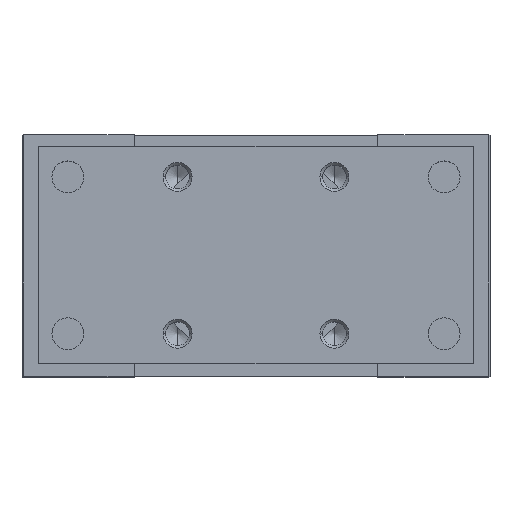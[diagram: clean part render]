
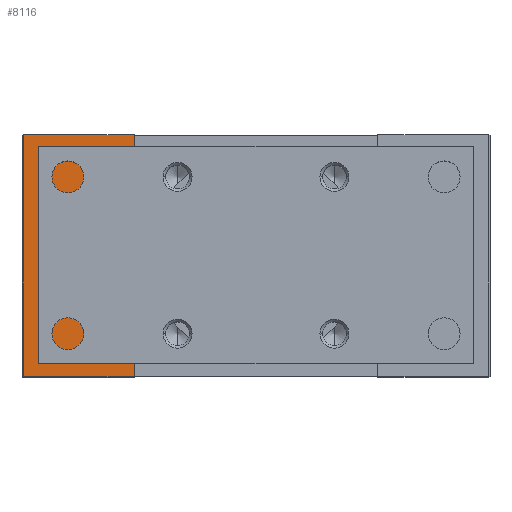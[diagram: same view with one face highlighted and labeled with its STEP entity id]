
A CAD part, top view. The second image highlights one B-rep face of the part: STEP entity #8116.
In plain terms, the highlighted planar face has unit normal (0, 0, 1).
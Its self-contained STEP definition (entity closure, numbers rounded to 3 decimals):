
#222 = DIRECTION ( 'NONE',  ( 0., -1., 0. ) ) ;
#427 = CARTESIAN_POINT ( 'NONE',  ( -48.2, -25., 49. ) ) ;
#521 = CIRCLE ( 'NONE', #6841, 6. ) ;
#560 = DIRECTION ( 'NONE',  ( 0., 0., -1. ) ) ;
#1081 = DIRECTION ( 'NONE',  ( 0., -1., 0. ) ) ;
#1389 = CARTESIAN_POINT ( 'NONE',  ( -43., 0., 49. ) ) ;
#1471 = EDGE_CURVE ( 'NONE', #4884, #1998, #5707, .T. ) ;
#1517 = DIRECTION ( 'NONE',  ( 1., 0., 0. ) ) ;
#1863 = CARTESIAN_POINT ( 'NONE',  ( -48.2, 50., 49. ) ) ;
#1998 = VERTEX_POINT ( 'NONE', #5231 ) ;
#2059 = CARTESIAN_POINT ( 'NONE',  ( -31., 0., 49. ) ) ;
#2268 = DIRECTION ( 'NONE',  ( 1., 0., 0. ) ) ;
#2499 = EDGE_CURVE ( 'NONE', #9607, #4266, #521, .T. ) ;
#2519 = PLANE ( 'NONE',  #10083 ) ;
#2645 = EDGE_LOOP ( 'NONE', ( #8421, #5435, #4868, #6909 ) ) ;
#3067 = CARTESIAN_POINT ( 'NONE',  ( -48.5, -25., 49. ) ) ;
#3124 = DIRECTION ( 'NONE',  ( 0., 0., 1. ) ) ;
#3261 = FACE_OUTER_BOUND ( 'NONE', #2645, .T. ) ;
#3302 = CIRCLE ( 'NONE', #3484, 6. ) ;
#3309 = ORIENTED_EDGE ( 'NONE', *, *, #4555, .F. ) ;
#3372 = FACE_BOUND ( 'NONE', #8006, .T. ) ;
#3441 = CARTESIAN_POINT ( 'NONE',  ( -48.2, 25., 49. ) ) ;
#3484 = AXIS2_PLACEMENT_3D ( 'NONE', #9493, #7751, #10394 ) ;
#3697 = ORIENTED_EDGE ( 'NONE', *, *, #2499, .F. ) ;
#4039 = EDGE_CURVE ( 'NONE', #4079, #4772, #7267, .T. ) ;
#4056 = DIRECTION ( 'NONE',  ( 0., -1., 0. ) ) ;
#4079 = VERTEX_POINT ( 'NONE', #427 ) ;
#4266 = VERTEX_POINT ( 'NONE', #2059 ) ;
#4555 = EDGE_CURVE ( 'NONE', #4266, #9607, #3302, .T. ) ;
#4581 = VECTOR ( 'NONE', #222, 1000. ) ;
#4772 = VERTEX_POINT ( 'NONE', #6905 ) ;
#4868 = ORIENTED_EDGE ( 'NONE', *, *, #4039, .T. ) ;
#4884 = VERTEX_POINT ( 'NONE', #3441 ) ;
#4994 = EDGE_CURVE ( 'NONE', #1998, #4772, #7957, .T. ) ;
#5231 = CARTESIAN_POINT ( 'NONE',  ( -25.25, 25., 49. ) ) ;
#5435 = ORIENTED_EDGE ( 'NONE', *, *, #6186, .T. ) ;
#5522 = VECTOR ( 'NONE', #1081, 1000. ) ;
#5525 = CARTESIAN_POINT ( 'NONE',  ( -25.25, 25., 49. ) ) ;
#5707 = LINE ( 'NONE', #5820, #6353 ) ;
#5820 = CARTESIAN_POINT ( 'NONE',  ( -48.5, 25., 49. ) ) ;
#6186 = EDGE_CURVE ( 'NONE', #4884, #4079, #9609, .T. ) ;
#6353 = VECTOR ( 'NONE', #1517, 1000. ) ;
#6841 = AXIS2_PLACEMENT_3D ( 'NONE', #9165, #3124, #2268 ) ;
#6905 = CARTESIAN_POINT ( 'NONE',  ( -25.25, -25., 49. ) ) ;
#6909 = ORIENTED_EDGE ( 'NONE', *, *, #4994, .F. ) ;
#7267 = LINE ( 'NONE', #3067, #11031 ) ;
#7751 = DIRECTION ( 'NONE',  ( 0., 0., 1. ) ) ;
#7957 = LINE ( 'NONE', #5525, #4581 ) ;
#8006 = EDGE_LOOP ( 'NONE', ( #3697, #3309 ) ) ;
#8116 = ADVANCED_FACE ( 'NONE', ( #3261, #3372 ), #2519, .F. ) ;
#8421 = ORIENTED_EDGE ( 'NONE', *, *, #1471, .F. ) ;
#9165 = CARTESIAN_POINT ( 'NONE',  ( -37., 0., 49. ) ) ;
#9493 = CARTESIAN_POINT ( 'NONE',  ( -37., 0., 49. ) ) ;
#9607 = VERTEX_POINT ( 'NONE', #1389 ) ;
#9609 = LINE ( 'NONE', #1863, #5522 ) ;
#9905 = DIRECTION ( 'NONE',  ( 1., 0., 0. ) ) ;
#10083 = AXIS2_PLACEMENT_3D ( 'NONE', #10148, #560, #4056 ) ;
#10148 = CARTESIAN_POINT ( 'NONE',  ( -48.5, 25., 49. ) ) ;
#10394 = DIRECTION ( 'NONE',  ( 1., 0., 0. ) ) ;
#11031 = VECTOR ( 'NONE', #9905, 1000. ) ;
